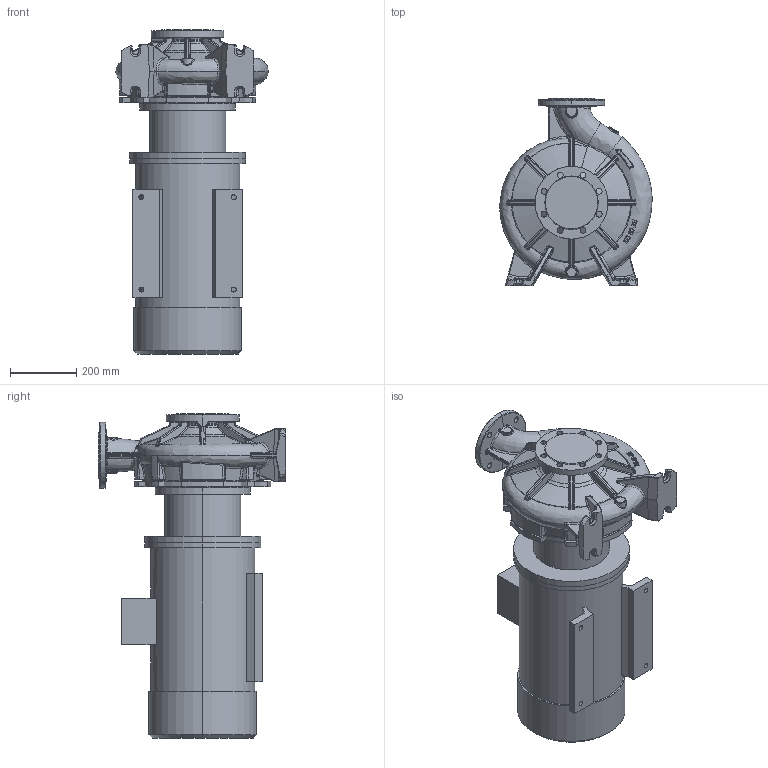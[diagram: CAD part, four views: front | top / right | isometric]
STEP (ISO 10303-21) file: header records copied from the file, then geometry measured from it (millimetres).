
FILE_DESCRIPTION (( 'STEP AP214' ), '1' );
FILE_NAME ('KRM 100-80-315-4-22.STEP', '2026-04-20T09:00:28', ( '' ), ( '' ), 'SwSTEP 2.0', 'SolidWorks 2016', '' );
FILE_SCHEMA (( 'AUTOMOTIVE_DESIGN' ));
Length unit declared in the file: millimetre
Products named in the file (1): KRM 100-80-315-4-22
Bounding box: 459.96 x 565 x 979.3 mm (x, y, z)
Volume: 84360880.1 mm3; surface area: 2521894.6 mm2
Topology: 12 solids, 12 shells, 1515 faces, 3641 edges, 2154 vertices
Faces by surface type: bspline 708, cylinder 310, plane 296, torus 110, cone 76, sphere 15
Entity records: 119884 total; most frequent: CARTESIAN_POINT 73522, ORIENTED_EDGE 7206, DIRECTION 4725, EDGE_CURVE 3603, VERTEX_POINT 2152, AXIS2_PLACEMENT_3D 1932, EDGE_LOOP 1587, UNCERTAINTY_MEASURE_WITH_UNIT 1529
